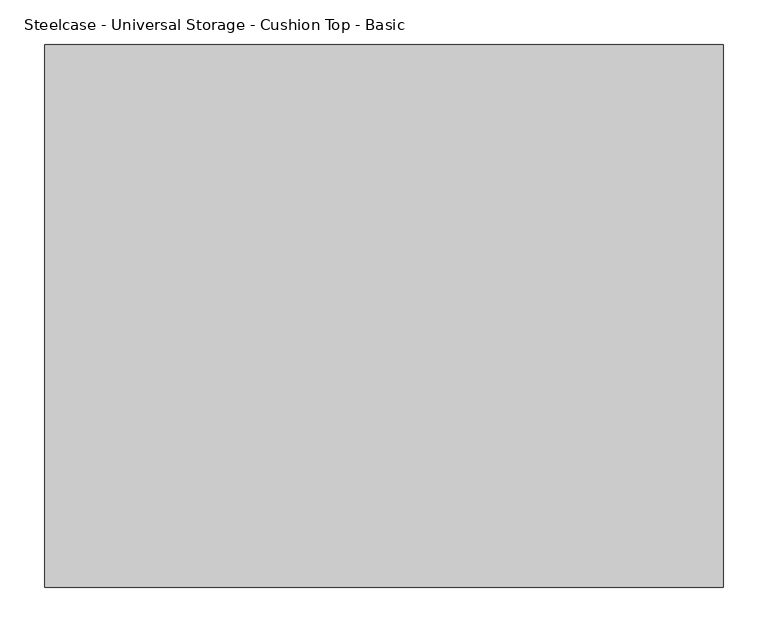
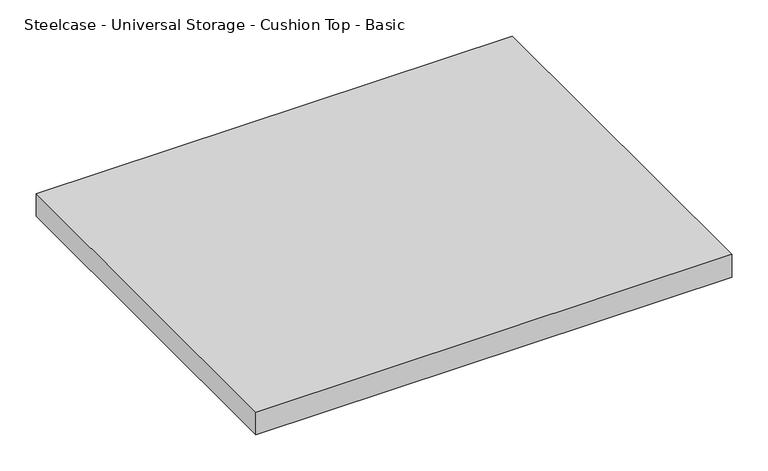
"""IFC4 building model written with IfcOpenShell, lengths in millimetres: furniture geometry, Steelcase - Universal Storage - Cushion Top - Basic : Lateral File - 24D x 30W."""

from ifc_helpers import new_model, si_unit, frame, origin, place, context, project, spatial, polyline, outline, extrude, source, transform, mapped, element, save


def steelcase_universal_storage_cushion_top_basic_55c22300(model_context):
    return source(origin(), model_context, "Body", "SweptSolid", [
        extrude(outline(polyline([(762.0, 0.0), (762.0, -609.6), (0.0, -609.6), (0.0, 0.0), (762.0, 0.0)])), frame((0.0, 0.0, 533.4), z_axis=(0.0, 0.0, 1.0), x_axis=(1.0, 0.0, 0.0)), (0.0, 0.0, 1.0), 38.0999971),
    ])


if __name__ == "__main__":
    model = new_model("IFC4")
    model_context = context("Model", 3, world=origin())
    ifc_project = project(units=[si_unit("LENGTHUNIT", "METRE", prefix="MILLI")], contexts=[model_context])
    site = spatial("IfcSite", under=ifc_project)
    building = spatial("IfcBuilding", under=site)
    placement = place(None, origin())
    steelcase_universal_storage_cushion_top_basic_shape = steelcase_universal_storage_cushion_top_basic_55c22300(model_context)
    element("IfcFurniture", 1, ObjectType="Steelcase - Universal Storage - Cushion Top - Basic : Lateral File - 24D x 30W", at=placement, inside=building, context=model_context, shape_type="MappedRepresentation", body=[
        mapped(steelcase_universal_storage_cushion_top_basic_shape, transform((0.0, 0.0, 0.0), x_axis=(1.0, 0.0, 0.0), y_axis=(0.0, 1.0, 0.0), z_axis=(0.0, 0.0, 1.0))),
    ])
    save(model, "model.ifc")
